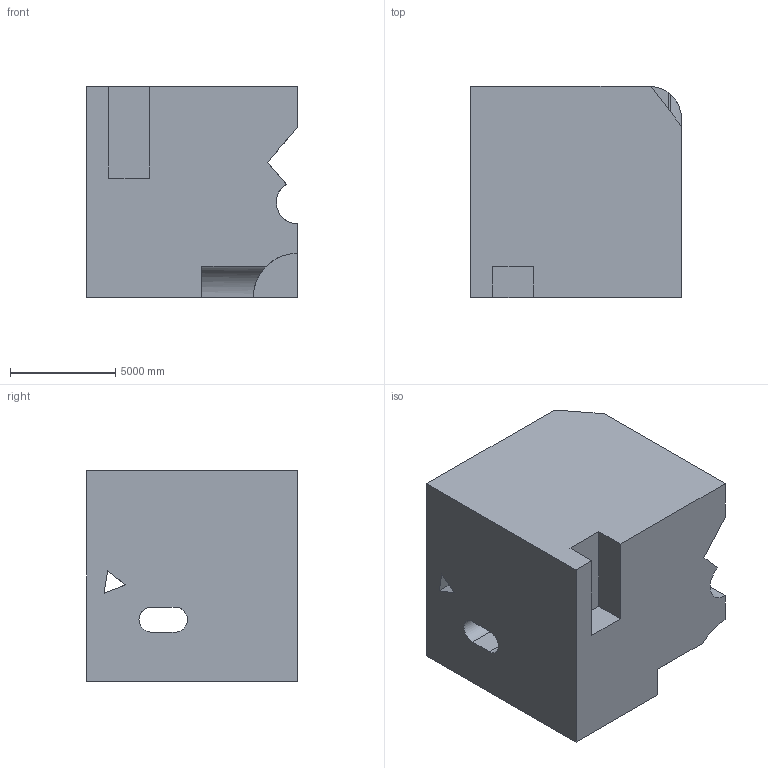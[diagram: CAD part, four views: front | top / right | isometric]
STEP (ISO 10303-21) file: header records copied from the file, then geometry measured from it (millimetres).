
FILE_DESCRIPTION (( 'STEP AP203' ), '1' );
FILE_NAME ('988.STEP', '2022-07-29T14:59:40', ( 'user' ), ( '' ), 'SwSTEP 2.0', 'SolidWorks 2021', '' );
FILE_SCHEMA (( 'CONFIG_CONTROL_DESIGN' ));
Length unit declared in the file: centimetre
Products named in the file (1): 988
Bounding box: 10000 x 10000 x 10000 mm (x, y, z)
Volume: 886766219037 mm3; surface area: 715487868.6 mm2
Topology: 1 solids, 1 shells, 33 faces, 105 edges, 70 vertices
Faces by surface type: plane 25, cylinder 8
Entity records: 1938 total; most frequent: CARTESIAN_POINT 949, ORIENTED_EDGE 210, DIRECTION 169, EDGE_CURVE 105, VECTOR 71, LINE 71, VERTEX_POINT 70, AXIS2_PLACEMENT_3D 49
